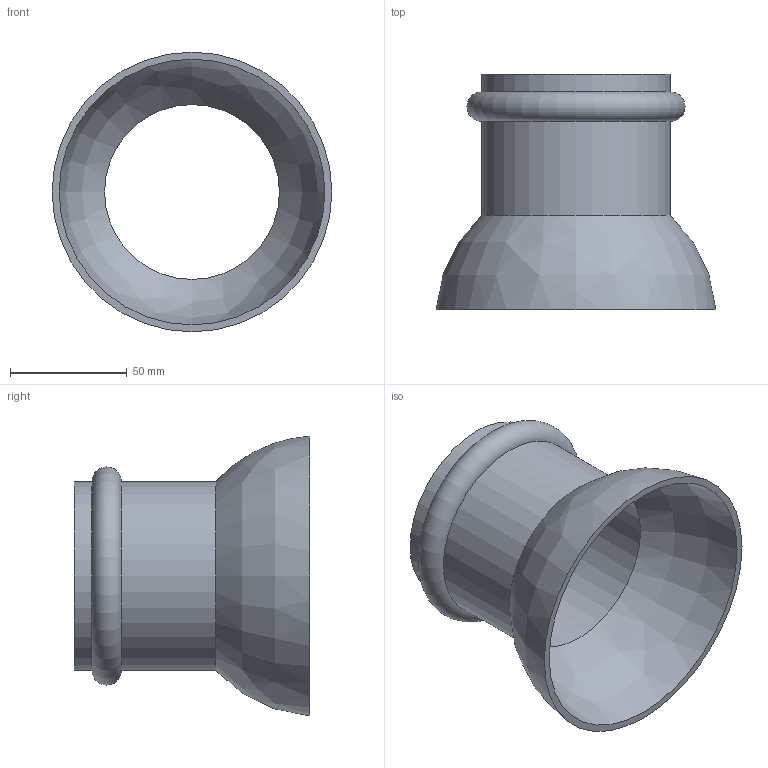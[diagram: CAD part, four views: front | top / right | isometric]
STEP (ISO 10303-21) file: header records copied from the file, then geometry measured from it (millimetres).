
FILE_DESCRIPTION( ( 'STEP AP214' ), '1' );
FILE_NAME( 'C:/Users/ilukic/Documents/ex/gebaudeentwasserung/pe/Geberit PE protecting cap/365.989.16.2.stp', '2020-03-26T18:42:19', ( '' ), ( '' ), ' ', 'PARTsolutions', ' ' );
FILE_SCHEMA( ( 'AUTOMOTIVE_DESIGN { 1 0 10303 214 1 1 1 1 }' ) );
Length unit declared in the file: millimetre
Products named in the file (1): _365.989.16.2
Bounding box: 120 x 101 x 120 mm (x, y, z)
Volume: 96337.5 mm3; surface area: 65997.2 mm2
Topology: 1 solids, 1 shells, 13 faces, 22 edges, 13 vertices
Faces by surface type: plane 4, cylinder 4, bspline 2, torus 2, cone 1
Full cylindrical faces by diameter (mm): 75 x2, 81 x2
Entity records: 442 total; most frequent: CARTESIAN_POINT 96, DIRECTION 50, EDGE_LOOP 26, ORIENTED_EDGE 26, AXIS2_PLACEMENT_3D 25, FACE_OUTER_BOUND 21, VERTEX_POINT 15, STYLED_ITEM 13
